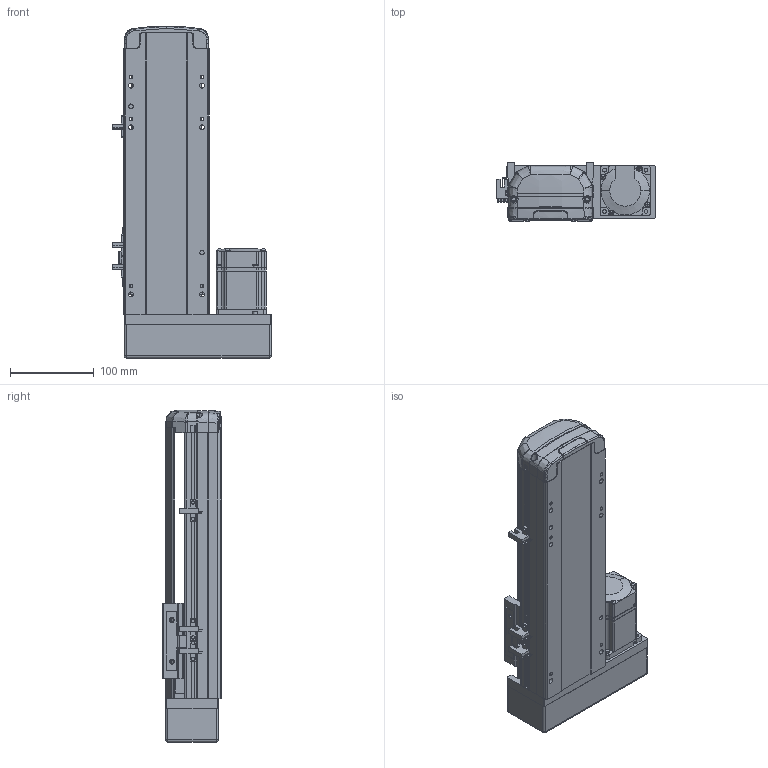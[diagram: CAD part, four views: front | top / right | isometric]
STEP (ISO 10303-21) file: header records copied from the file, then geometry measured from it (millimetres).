
FILE_DESCRIPTION (( 'STEP AP214' ), '1' );
FILE_NAME ('RTH10-XX-150-R-M20-C4.STEP', '2025-10-25T04:57:12', ( 'Microsoft' ), ( 'Microsoft' ), 'SwSTEP 2.0', 'SolidWorks 2018', '' );
FILE_SCHEMA (( 'AUTOMOTIVE_DESIGN' ));
Length unit declared in the file: millimetre
Products named in the file (10): N_RTH10-L-018-裔赽^RTH10-XX-XX-R-M20-C4; N_RTH13-L-012覜茼え俋离^RTH10-XX-XX-R-M20-C4; N_RTH10-M-007P-奻裔^RTH10-XX-XX-R-M20-C4; N_RTH10-GY-001P^RTH10-XX-XX-R-M20-C4; N_200W-1^RTH10-XX-XX-R-M20-C4; N_OMRON EE-SX672 传感器^RTH10-XX-XX-R-M20-C4; N_RTH10-M-011P-臏倰第菁釱^RTH10-XX-XX-R-M20-C4; N_RTH10-GY-004-賑釱^RTH10-XX-XX-R-M20-C4; N_RTH10-L-008萇儂啣^RTH10-XX-XX-R-M20-C4; RTH10-XX-150-R-M20-C4
Assembly tree (11 placements, depth 2):
  RTH10-XX-150-R-M20-C4
    N_RTH10-M-011P-臏倰第菁釱^RTH10-XX-XX-R-M20-C4
    N_RTH13-L-012覜茼え俋离^RTH10-XX-XX-R-M20-C4
    N_OMRON EE-SX672 传感器^RTH10-XX-XX-R-M20-C4  x3
    N_200W-1^RTH10-XX-XX-R-M20-C4
    N_RTH10-M-007P-奻裔^RTH10-XX-XX-R-M20-C4
    N_RTH10-L-008萇儂啣^RTH10-XX-XX-R-M20-C4
    N_RTH10-L-018-裔赽^RTH10-XX-XX-R-M20-C4
    N_RTH10-GY-004-賑釱^RTH10-XX-XX-R-M20-C4
    N_RTH10-GY-001P^RTH10-XX-XX-R-M20-C4
Bounding box: 190 x 70 x 397.31 mm (x, y, z)
Volume: 2228412.8 mm3; surface area: 353580.7 mm2
Topology: 10 solids, 12 shells, 1936 faces, 5377 edges, 3529 vertices
Faces by surface type: plane 975, bspline 472, cylinder 454, cone 29, sphere 4, torus 2
Entity records: 57863 total; most frequent: CARTESIAN_POINT 22933, ORIENTED_EDGE 7826, DIRECTION 6011, EDGE_CURVE 3919, VERTEX_POINT 2573, LINE 2117, VECTOR 2117, AXIS2_PLACEMENT_3D 1947
